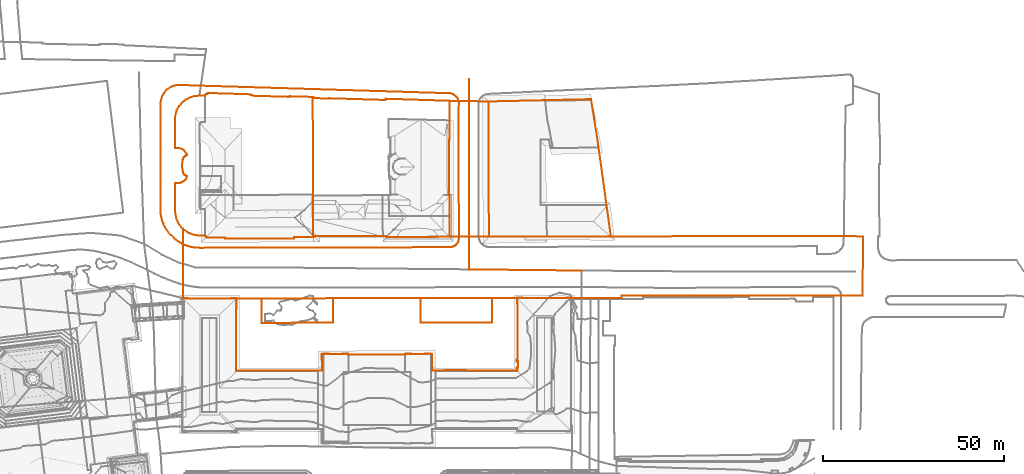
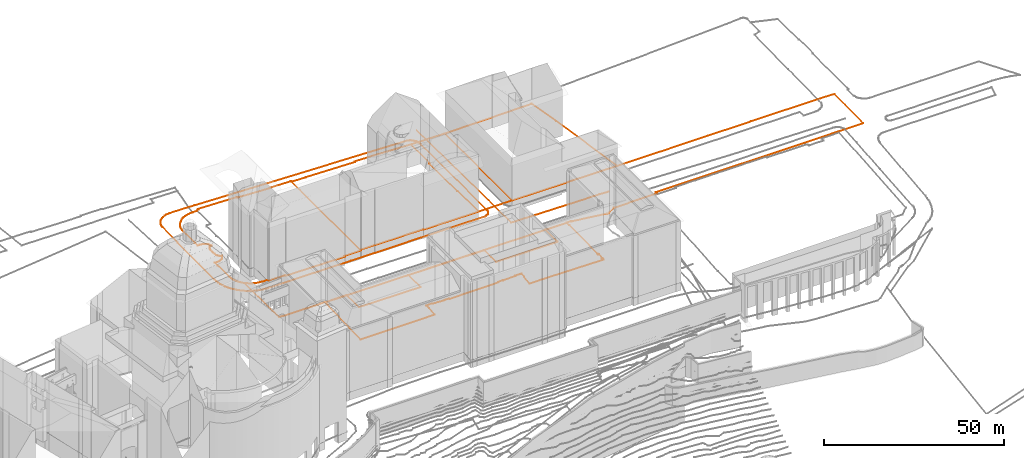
# Not in any storey, part 222 of 494: 9 proxies.
"""IFC2X3 model written with IfcOpenShell, lengths in metres."""

from ifc_helpers import new_model, entity, si_unit, frame, origin_with_axes, place, context, subcontext, project, element, save


model = new_model("IFC2X3")

# Units and contexts
model_context = context("Model", 3, precision=1e-05, world=origin_with_axes())
body_context = subcontext(model_context, "Body", "Model", "MODEL_VIEW")
ifc_project = project(units=[si_unit("AREAUNIT", "SQUARE_METRE"), si_unit("LENGTHUNIT", "METRE")], contexts=[model_context])

# Proxies
proxy_1_placement = place(None, frame((652.6867320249, 417.5187304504, 542.486), z_axis=(0.0, 0.0, 1.0), x_axis=(1.0, 0.0, 0.0)))
element("IfcBuildingElementProxy", 1, at=proxy_1_placement, Name="Road 3", ObjectType="NOTDEFINED", context=body_context, shape_type="GeometricCurveSet", body=[
    entity("IfcGeometricCurveSet", [entity("IfcPolyline", [entity("IfcCartesianPoint", [0.0370000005, 52.7809983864, -0.659]), entity("IfcCartesianPoint", [0.0, 0.0, 0.0])])]),
])
proxy_2_placement = place(None, frame((652.6867320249, 417.5187304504, 542.486), z_axis=(0.0, 0.0, 1.0), x_axis=(1.0, 0.0, 0.0)))
element("IfcBuildingElementProxy", 2, at=proxy_2_placement, Name="Road 36", ObjectType="NOTDEFINED", context=body_context, shape_type="GeometricCurveSet", body=[
    entity("IfcGeometricCurveSet", [entity("IfcPolyline", [entity("IfcCartesianPoint", [0.0, 0.0, 0.0]), entity("IfcCartesianPoint", [28.1950000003, -0.2939999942, -0.083]), entity("IfcCartesianPoint", [31.069000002, -0.3179999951, -0.138])])]),
])
proxy_3_placement = place(None, frame((567.4697320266, 434.5867160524, 542.7544887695), z_axis=(0.0, 0.0, 1.0), x_axis=(1.0, 0.0, 0.0)))
element("IfcBuildingElementProxy", 3, at=proxy_3_placement, Name="Roads Outline 43", ObjectType="NOTDEFINED", context=body_context, shape_type="GeometricCurveSet", body=[
    entity("IfcGeometricCurveSet", [entity("IfcPolyline", [entity("IfcCartesianPoint", [0.0, 0.0, 0.0]), entity("IfcCartesianPoint", [0.0620000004, 20.564, 0.0004995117]), entity("IfcCartesianPoint", [0.0780000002, 29.0260000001, 0.000628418]), entity("IfcCartesianPoint", [0.1400000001, 29.5870000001, 0.0011279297]), entity("IfcCartesianPoint", [0.2630000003, 30.1370000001, 0.0021188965]), entity("IfcCartesianPoint", [0.4470000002, 30.6710000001, 0.0036013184]), entity("IfcCartesianPoint", [0.6880000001, 31.1810000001, 0.0055429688]), entity("IfcCartesianPoint", [0.9840000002, 31.6610000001, -0.0008994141]), entity("IfcCartesianPoint", [1.3310000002, 32.1060000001, -0.0092016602]), entity("IfcCartesianPoint", [1.7590000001, 32.54, -0.0146170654]), entity("IfcCartesianPoint", [2.2350000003, 32.9200000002, 0.019026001]), entity("IfcCartesianPoint", [2.7540000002, 33.2410000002, 0.0548631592]), entity("IfcCartesianPoint", [3.307, 33.497, 0.0837890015]), entity("IfcCartesianPoint", [3.8870000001, 33.6850000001, 0.1035077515]), entity("IfcCartesianPoint", [4.4850000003, 33.8030000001, 0.0993103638]), entity("IfcCartesianPoint", [5.0930000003, 33.848, 0.0990375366]), entity("IfcCartesianPoint", [11.1800000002, 33.662, 0.1599814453]), entity("IfcCartesianPoint", [11.193, 33.662, 0.159239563]), entity("IfcCartesianPoint", [13.054, 33.605, 0.130519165]), entity("IfcCartesianPoint", [79.9580000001, 31.568, -0.1419857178]), entity("IfcCartesianPoint", [80.3730000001, 31.4780000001, -0.1546251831]), entity("IfcCartesianPoint", [80.77, 31.328, -0.1694902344]), entity("IfcCartesianPoint", [81.1400000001, 31.121, -0.1973125]), entity("IfcCartesianPoint", [81.4760000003, 30.861, -0.222578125]), entity("IfcCartesianPoint", [81.7690000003, 30.5550000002, -0.2429386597]), entity("IfcCartesianPoint", [82.014, 30.2080000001, -0.2546473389]), entity("IfcCartesianPoint", [82.202, 29.835, -0.263631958]), entity("IfcCartesianPoint", [82.3340000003, 29.439, -0.2699403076]), entity("IfcCartesianPoint", [82.4130000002, 28.9669999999, -0.2737157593]), entity("IfcCartesianPoint", [82.412, 28.4890000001, -0.2736679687]), entity("IfcCartesianPoint", [82.3310000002, 28.017, -0.269796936]), entity("IfcCartesianPoint", [82.4300000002, -8.0559999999, -0.2617280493]), entity("IfcCartesianPoint", [82.4310000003, -8.4479999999, -0.2572122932]), entity("IfcCartesianPoint", [82.4020000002, -8.838, -0.2531669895]), entity("IfcCartesianPoint", [82.3120000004, -9.219, -0.2458946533]), entity("IfcCartesianPoint", [82.1640000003, -9.581, -0.2374124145]), entity("IfcCartesianPoint", [81.96, -9.915, -0.2282564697]), entity("IfcCartesianPoint", [81.7069999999, -10.213, -0.2169340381]), entity("IfcCartesianPoint", [81.4080000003, -10.469, -0.2091205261]), entity("IfcCartesianPoint", [81.071, -10.6739999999, -0.2026078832]), entity("IfcCartesianPoint", [80.7069999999, -10.8229999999, -0.1977775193]), entity("IfcCartesianPoint", [80.324, -10.9139999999, -0.1894714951]), entity("IfcCartesianPoint", [79.9310000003, -10.942, -0.1842285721]), entity("IfcCartesianPoint", [37.3480000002, -11.047, -0.0719289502]), entity("IfcCartesianPoint", [11.0460000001, -11.108, 0.0469855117]), entity("IfcCartesianPoint", [10.159, -11.0899999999, 0.0246004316]), entity("IfcCartesianPoint", [9.2760000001, -10.9989999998, 0.0096137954]), entity("IfcCartesianPoint", [8.4029999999, -10.835, 0.0299447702]), entity("IfcCartesianPoint", [7.548, -10.598, 0.0329820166]), entity("IfcCartesianPoint", [6.7150000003, -10.291, 0.0102159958]), entity("IfcCartesianPoint", [6.4640000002, -10.182, 0.010467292]), entity("IfcCartesianPoint", [6.2150000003, -10.067, 0.0093346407]), entity("IfcCartesianPoint", [6.1520000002, -10.037, 0.008769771]), entity("IfcCartesianPoint", [6.0900000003, -10.0060000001, 0.0080815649]), entity("IfcCartesianPoint", [5.4210000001, -9.6439999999, 0.0198054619]), entity("IfcCartesianPoint", [4.7790000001, -9.2349999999, 0.0073437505]), entity("IfcCartesianPoint", [4.1680000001, -8.781, 0.0195886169]), entity("IfcCartesianPoint", [3.591, -8.2849999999, 0.0284144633]), entity("IfcCartesianPoint", [2.9140000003, -7.6189999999, 0.0165648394]), entity("IfcCartesianPoint", [2.2940000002, -6.898, 0.0231960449]), entity("IfcCartesianPoint", [1.7370000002, -6.129, -0.0161719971]), entity("IfcCartesianPoint", [1.2460000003, -5.3159999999, -0.0071679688]), entity("IfcCartesianPoint", [0.8250000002, -4.4639999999, 0.0029047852]), entity("IfcCartesianPoint", [0.5060000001, -3.6069999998, 0.0040766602]), entity("IfcCartesianPoint", [0.2630000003, -2.7249999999, 0.0021188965]), entity("IfcCartesianPoint", [0.0970000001, -1.825, 0.0007814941]), entity("IfcCartesianPoint", [0.0090000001, -0.915, 7.25098e-05]), entity("IfcCartesianPoint", [0.0, 0.0, 0.0])])]),
])
proxy_4_placement = place(None, frame((588.3927320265, 389.6227160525, 542.3735518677), z_axis=(0.0, 0.0, 1.0), x_axis=(1.0, 0.0, 0.0)))
element("IfcBuildingElementProxy", 4, at=proxy_4_placement, Name="Roads Outline 48", ObjectType="NOTDEFINED", context=body_context, shape_type="GeometricCurveSet", body=[
    entity("IfcGeometricCurveSet", [entity("IfcPolyline", [entity("IfcCartesianPoint", [0.0, 0.0, 0.0]), entity("IfcCartesianPoint", [0.0470000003, 18.6070000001, 0.4447444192]), entity("IfcCartesianPoint", [0.1460000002, 18.605, 0.4409442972]), entity("IfcCartesianPoint", [0.1460000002, 19.8740000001, 0.4538349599]), entity("IfcCartesianPoint", [6.8940000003, 19.8840000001, 0.5417406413]), entity("IfcCartesianPoint", [7.0130000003, 19.8840000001, 0.5450326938]), entity("IfcCartesianPoint", [7.0360000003, 13.1429999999, 0.481623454]), entity("IfcCartesianPoint", [26.7250000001, 13.156, 0.3870995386]), entity("IfcCartesianPoint", [26.713, 19.9169999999, 0.2710653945]), entity("IfcCartesianPoint", [50.969, 19.956, 0.2468383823]), entity("IfcCartesianPoint", [50.969, 19.8999999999, 0.2442761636]), entity("IfcCartesianPoint", [50.9720000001, 13.219, 0.3616328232]), entity("IfcCartesianPoint", [70.6670000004, 13.2579999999, 0.2745794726]), entity("IfcCartesianPoint", [70.6510000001, 19.9879999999, 0.2568159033]), entity("IfcCartesianPoint", [77.5020000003, 19.9990000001, 0.1804133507]), entity("IfcCartesianPoint", [77.5010000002, 18.6569999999, 0.189393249]), entity("IfcCartesianPoint", [77.6500000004, 18.6569999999, 0.1903091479]), entity("IfcCartesianPoint", [77.6670000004, 3.054, 0.0783720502]), entity("IfcCartesianPoint", [77.4880000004, 3.054, 0.1048495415]), entity("IfcCartesianPoint", [77.4920000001, 2.517, 0.0850132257]), entity("IfcCartesianPoint", [77.8350000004, 2.5190000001, 0.0435398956]), entity("IfcCartesianPoint", [77.8490000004, 0.7409999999, -0.1432831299]), entity("IfcCartesianPoint", [77.4960000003, 0.7390000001, -0.1122651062]), entity("IfcCartesianPoint", [77.4950000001, 0.2139999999, -0.1844251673]), entity("IfcCartesianPoint", [77.7050000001, 0.2139999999, -0.2030466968]), entity("IfcCartesianPoint", [77.7050000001, 0.004, -0.2319466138]), entity("IfcCartesianPoint", [77.6380000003, 0.004, -0.2260049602]), entity("IfcCartesianPoint", [58.642, 0.0419999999, -0.0577183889]), entity("IfcCartesianPoint", [54.0320000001, 0.0109999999, -0.0286762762]), entity("IfcCartesianPoint", [54.0310000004, 3.071, 0.4948335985]), entity("IfcCartesianPoint", [54.1510000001, 3.071, 0.4900193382]), entity("IfcCartesianPoint", [54.1490000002, 4.558, 0.5011787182]), entity("IfcCartesianPoint", [53.6490000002, 4.5630000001, 0.5114040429]), entity("IfcCartesianPoint", [53.6510000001, 4.6629999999, 0.5086091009]), entity("IfcCartesianPoint", [52.145, 4.6599999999, 0.531783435]), entity("IfcCartesianPoint", [52.1430000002, 4.4990000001, 0.5352608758]), entity("IfcCartesianPoint", [48.2420000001, 4.487, 0.3741891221]), entity("IfcCartesianPoint", [48.2390000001, 4.649, 0.3931432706]), entity("IfcCartesianPoint", [46.73, 4.6410000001, 0.299680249]), entity("IfcCartesianPoint", [46.7260000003, 4.4350000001, 0.2751059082]), entity("IfcCartesianPoint", [30.9350000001, 4.4299999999, 0.1564332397]), entity("IfcCartesianPoint", [30.932, 4.645, 0.1817151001]), entity("IfcCartesianPoint", [29.4390000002, 4.6369999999, 0.2369729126]), entity("IfcCartesianPoint", [29.4330000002, 4.477, 0.2184680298]), entity("IfcCartesianPoint", [25.5380000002, 4.477, 0.4378212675]), entity("IfcCartesianPoint", [25.5330000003, 4.6310000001, 0.4449681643]), entity("IfcCartesianPoint", [24.0430000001, 4.6229999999, 0.4758845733]), entity("IfcCartesianPoint", [24.0270000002, 4.5279999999, 0.475778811]), entity("IfcCartesianPoint", [23.5360000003, 4.517, 0.4798681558]), entity("IfcCartesianPoint", [23.5650000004, 3.058, 0.4714583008]), entity("IfcCartesianPoint", [23.6860000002, 3.0549999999, 0.4696469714]), entity("IfcCartesianPoint", [23.6900000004, -0.0150000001, 0.132790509]), entity("IfcCartesianPoint", [0.0, 0.0, 0.0])])]),
])
proxy_5_placement = place(None, frame((571.4827320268, 450.9747160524, 542.8571121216), z_axis=(0.0, 0.0, 1.0), x_axis=(1.0, 0.0, 0.0)))
element("IfcBuildingElementProxy", 5, at=proxy_5_placement, Name="Cadastre 14", ObjectType="NOTDEFINED", context=body_context, shape_type="GeometricCurveSet", body=[
    entity("IfcGeometricCurveSet", [entity("IfcPolyline", [entity("IfcCartesianPoint", [0.0, 0.0, 0.0]), entity("IfcCartesianPoint", [0.0019999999, 1.5090000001, -1.40381e-05]), entity("IfcCartesianPoint", [0.0630000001, 1.517, -0.0004421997]), entity("IfcCartesianPoint", [0.0290000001, 7.8489999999, -0.0002035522]), entity("IfcCartesianPoint", [0.0519999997, 8.5090000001, -0.0003649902]), entity("IfcCartesianPoint", [0.142, 9.1629999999, -0.0009967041]), entity("IfcCartesianPoint", [0.298, 9.8049999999, -0.0020916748]), entity("IfcCartesianPoint", [0.517, 10.4280000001, -0.0036288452]), entity("IfcCartesianPoint", [0.798, 11.0249999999, -0.0045324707]), entity("IfcCartesianPoint", [1.1379999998, 11.591, -0.0033911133]), entity("IfcCartesianPoint", [1.5329999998, 12.1200000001, -0.0020651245]), entity("IfcCartesianPoint", [1.9789999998, 12.6070000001, 0.0097111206]), entity("IfcCartesianPoint", [2.4720000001, 13.0460000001, 0.0292096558]), entity("IfcCartesianPoint", [3.0060000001, 13.433, 0.037744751]), entity("IfcCartesianPoint", [3.577, 13.7650000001, 0.0372219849]), entity("IfcCartesianPoint", [4.179, 14.037, 0.0449423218]), entity("IfcCartesianPoint", [4.804, 14.247, 0.0559094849]), entity("IfcCartesianPoint", [5.4479999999, 14.3929999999, 0.0713963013]), entity("IfcCartesianPoint", [6.1030000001, 14.4739999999, 0.0801749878]), entity("IfcCartesianPoint", [6.7629999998, 14.4880000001, 0.0804135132]), entity("IfcCartesianPoint", [6.7709999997, 14.55, 0.0799569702]), entity("IfcCartesianPoint", [8.2719999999, 14.5490000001, 0.0282827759]), entity("IfcCartesianPoint", [8.2779999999, 14.6699999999, 0.0282937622]), entity("IfcCartesianPoint", [8.6489999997, 15.0060000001, 0.0289730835]), entity("IfcCartesianPoint", [8.9789999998, 15.0050000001, 0.0281039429]), entity("IfcCartesianPoint", [8.997, 15.253, 0.0280435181]), entity("IfcCartesianPoint", [21.0759999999, 14.8700000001, 0.0100957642]), entity("IfcCartesianPoint", [21.0639999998, 14.625, 0.0100855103]), entity("IfcCartesianPoint", [21.3870000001, 14.615, 0.0103615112]), entity("IfcCartesianPoint", [21.3939999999, 14.5660000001, 0.0103674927]), entity("IfcCartesianPoint", [21.7579999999, 14.548, 0.0103555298]), entity("IfcCartesianPoint", [21.7719999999, 14.4790000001, 0.0102957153]), entity("IfcCartesianPoint", [31.4210000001, 14.186, -0.1225966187]), entity("IfcCartesianPoint", [31.4249999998, 14.2820000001, -0.1227243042]), entity("IfcCartesianPoint", [31.7679999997, 14.277, -0.1336688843]), entity("IfcCartesianPoint", [31.7709999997, 14.344, -0.1337644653]), entity("IfcCartesianPoint", [38.0589999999, 14.1629999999, -0.1517463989]), entity("IfcCartesianPoint", [38.0589999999, 14.0900000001, -0.1517463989]), entity("IfcCartesianPoint", [38.1710000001, -24.4750000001, -0.1483571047]), entity("IfcCartesianPoint", [38.1710000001, -24.544, -0.1503563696]), entity("IfcCartesianPoint", [32.8479999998, -24.547, -0.1371345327]), entity("IfcCartesianPoint", [32.8419999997, -24.9039999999, -0.1416531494]), entity("IfcCartesianPoint", [13.9029999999, -24.9609999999, 0.0271454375]), entity("IfcCartesianPoint", [13.8679999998, -24.615, 0.0445227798]), entity("IfcCartesianPoint", [8.7509999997, -24.6259999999, 0.0477380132]), entity("IfcCartesianPoint", [8.3929999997, -24.277, 0.0582267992]), entity("IfcCartesianPoint", [8.3899999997, -24.1569999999, 0.054523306]), entity("IfcCartesianPoint", [6.8769999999, -24.169, 0.0649339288]), entity("IfcCartesianPoint", [6.8759999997, -24.095, 0.0657276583]), entity("IfcCartesianPoint", [6.23, -24.068, 0.0655939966]), entity("IfcCartesianPoint", [5.5889999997, -23.98, 0.0566184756]), entity("IfcCartesianPoint", [4.96, -23.8300000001, 0.0345990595]), entity("IfcCartesianPoint", [4.3479999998, -23.621, 0.029925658]), entity("IfcCartesianPoint", [3.7590000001, -23.3540000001, 0.0353835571]), entity("IfcCartesianPoint", [3.199, -23.031, 0.0375680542]), entity("IfcCartesianPoint", [2.6719999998, -22.6569999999, 0.037119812]), entity("IfcCartesianPoint", [2.1829999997, -22.233, 0.01777948]), entity("IfcCartesianPoint", [1.736, -21.763, 0.0001002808]), entity("IfcCartesianPoint", [1.3359999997, -21.2520000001, -0.0027264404]), entity("IfcCartesianPoint", [0.9879999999, -20.7050000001, -0.0038946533]), entity("IfcCartesianPoint", [0.693, -20.1270000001, -0.0048641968]), entity("IfcCartesianPoint", [0.4559999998, -19.524, -0.0032006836]), entity("IfcCartesianPoint", [0.2779999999, -18.8999999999, -0.0019512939]), entity("IfcCartesianPoint", [0.1599999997, -18.2619999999, -0.0011230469]), entity("IfcCartesianPoint", [0.105, -17.6159999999, -0.0007369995]), entity("IfcCartesianPoint", [0.0949999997, -11.1089999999, -0.0006668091]), entity("IfcCartesianPoint", [0.0209999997, -11.1000000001, -0.0001473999]), entity("IfcCartesianPoint", [0.02, -9.5900000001, -0.0001403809]), entity("IfcCartesianPoint", [0.7739999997, -9.588, -0.0046130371]), entity("IfcCartesianPoint", [0.7779999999, -9.6189999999, -0.0045996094]), entity("IfcCartesianPoint", [1.213, -9.598, -0.0031393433]), entity("IfcCartesianPoint", [1.6379999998, -9.504, -0.0017126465]), entity("IfcCartesianPoint", [2.0409999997, -9.341, 0.012163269]), entity("IfcCartesianPoint", [2.412, -9.1129999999, 0.0268366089]), entity("IfcCartesianPoint", [2.7399999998, -8.825, 0.0379882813]), entity("IfcCartesianPoint", [3.0149999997, -8.486, 0.0377365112]), entity("IfcCartesianPoint", [3.2289999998, -8.1059999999, 0.0375405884]), entity("IfcCartesianPoint", [3.3769999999, -7.6950000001, 0.0374050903]), entity("IfcCartesianPoint", [3.088, -7.6040000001, 0.0376696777]), entity("IfcCartesianPoint", [2.8219999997, -7.4579999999, 0.037913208]), entity("IfcCartesianPoint", [2.5899999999, -7.2619999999, 0.033876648]), entity("IfcCartesianPoint", [2.4019999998, -7.024, 0.0264411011]), entity("IfcCartesianPoint", [2.264, -6.754, 0.0209830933]), entity("IfcCartesianPoint", [2.1829999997, -6.4620000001, 0.01777948]), entity("IfcCartesianPoint", [2.074, -5.817, 0.0134684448]), entity("IfcCartesianPoint", [2.0159999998, -5.165, 0.0111744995]), entity("IfcCartesianPoint", [2.0109999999, -4.5109999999, 0.0109767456]), entity("IfcCartesianPoint", [2.057, -3.858, 0.0127960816]), entity("IfcCartesianPoint", [2.1540000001, -3.2109999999, 0.0166325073]), entity("IfcCartesianPoint", [2.2390000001, -2.916, 0.0199943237]), entity("IfcCartesianPoint", [2.378, -2.642, 0.0254918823]), entity("IfcCartesianPoint", [2.5669999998, -2.3999999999, 0.03296698]), entity("IfcCartesianPoint", [2.7990000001, -2.1980000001, 0.0379342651]), entity("IfcCartesianPoint", [3.0639999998, -2.0430000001, 0.0376916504]), entity("IfcCartesianPoint", [3.3539999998, -1.942, 0.0374261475]), entity("IfcCartesianPoint", [3.2059999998, -1.5289999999, 0.0375616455]), entity("IfcCartesianPoint", [2.9929999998, -1.1459999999, 0.0377566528]), entity("IfcCartesianPoint", [2.7199999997, -0.8030000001, 0.0380065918]), entity("IfcCartesianPoint", [2.3939999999, -0.51, 0.0261246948]), entity("IfcCartesianPoint", [2.0249999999, -0.274, 0.0115304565]), entity("IfcCartesianPoint", [1.622, -0.102, -0.0017663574]), entity("IfcCartesianPoint", [1.1969999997, 0.0020000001, -0.0031930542]), entity("IfcCartesianPoint", [0.7599999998, 0.0349999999, -0.0046600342]), entity("IfcCartesianPoint", [0.7560000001, -0.004, -0.0046734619]), entity("IfcCartesianPoint", [0.0, 0.0, 0.0])])]),
])
proxy_6_placement = place(None, frame((609.5417320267, 465.0647160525, 542.7053657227), z_axis=(0.0, 0.0, 1.0), x_axis=(1.0, 0.0, 0.0)))
element("IfcBuildingElementProxy", 6, at=proxy_6_placement, Name="Cadastre 18", ObjectType="NOTDEFINED", context=body_context, shape_type="GeometricCurveSet", body=[
    entity("IfcGeometricCurveSet", [entity("IfcPolyline", [entity("IfcCartesianPoint", [0.0, 0.0, 0.0]), entity("IfcCartesianPoint", [0.1809999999, -0.003, 0.0050596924]), entity("IfcCartesianPoint", [0.1690000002, -0.2439999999, 0.0047242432]), entity("IfcCartesianPoint", [4.5499999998, -0.382, 0.0129088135]), entity("IfcCartesianPoint", [4.5529999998, -0.301, 0.0129573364]), entity("IfcCartesianPoint", [20.111, -0.773, 0.0272835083]), entity("IfcCartesianPoint", [20.1140000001, -0.433, 0.0272452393]), entity("IfcCartesianPoint", [37.764, -0.9950000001, -0.0891469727]), entity("IfcCartesianPoint", [37.798, -11.6880000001, -0.0901824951]), entity("IfcCartesianPoint", [37.588, -11.682, -0.0833823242]), entity("IfcCartesianPoint", [37.6290000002, -27.017, -0.0849763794]), entity("IfcCartesianPoint", [37.818, -27.0020000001, -0.090791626]), entity("IfcCartesianPoint", [37.8450000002, -38.5390000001, -0.1008476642]), entity("IfcCartesianPoint", [20.2110000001, -38.5720000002, -0.0028393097]), entity("IfcCartesianPoint", [20.2280000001, -38.3689999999, 0.0042158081]), entity("IfcCartesianPoint", [4.6690000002, -38.3910000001, 0.0470196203]), entity("IfcCartesianPoint", [4.6690000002, -38.311, 0.0444764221]), entity("IfcCartesianPoint", [0.281, -38.338, 0.0063204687]), entity("IfcCartesianPoint", [0.2880000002, -38.5590000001, 0.0018945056]), entity("IfcCartesianPoint", [0.1120000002, -38.5650000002, 0.0033892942]), entity("IfcCartesianPoint", [0.0, 0.0, 0.0])])]),
])
proxy_7_placement = place(None, frame((658.1087320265, 463.8807160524, 542.6050545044), z_axis=(0.0, 0.0, 1.0), x_axis=(1.0, 0.0, 0.0)))
element("IfcBuildingElementProxy", 7, at=proxy_7_placement, Name="Cadastre 19", ObjectType="NOTDEFINED", context=body_context, shape_type="GeometricCurveSet", body=[
    entity("IfcGeometricCurveSet", [entity("IfcPolyline", [entity("IfcCartesianPoint", [0.0, 0.0, 0.0]), entity("IfcCartesianPoint", [28.0160000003, 0.6370000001, -0.1387178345]), entity("IfcCartesianPoint", [28.2660000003, 0.6410000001, -0.1468653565]), entity("IfcCartesianPoint", [29.98, -9.9039999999, -0.1692634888]), entity("IfcCartesianPoint", [33.7630000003, -37.2609999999, -0.1397594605]), entity("IfcCartesianPoint", [0.0600000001, -37.3319999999, 0.0107756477]), entity("IfcCartesianPoint", [0.0, 0.0, 0.0])])]),
])
proxy_8_placement = place(None, frame((573.6657320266, 428.7417160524, 542.8748916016), z_axis=(0.0, 0.0, 1.0), x_axis=(1.0, 0.0, 0.0)))
element("IfcBuildingElementProxy", 8, at=proxy_8_placement, Name="Cadastre 140", ObjectType="NOTDEFINED", context=body_context, shape_type="GeometricCurveSet", body=[
    entity("IfcGeometricCurveSet", [entity("IfcPolyline", [entity("IfcCartesianPoint", [0.0, 0.0, 0.0]), entity("IfcCartesianPoint", [0.4890000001, -0.4239999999, 0.019340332]), entity("IfcCartesianPoint", [1.0160000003, -0.798, 0.0197885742]), entity("IfcCartesianPoint", [1.5760000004, -1.121, 0.0176040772]), entity("IfcCartesianPoint", [2.165, -1.388, 0.012146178]), entity("IfcCartesianPoint", [2.7770000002, -1.5970000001, 0.0168195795]), entity("IfcCartesianPoint", [3.406, -1.747, 0.0388389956]), entity("IfcCartesianPoint", [4.0470000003, -1.835, 0.0478145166]), entity("IfcCartesianPoint", [4.693, -1.862, 0.0479481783]), entity("IfcCartesianPoint", [4.6940000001, -1.936, 0.0471544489]), entity("IfcCartesianPoint", [6.2069999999, -1.9239999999, 0.036743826]), entity("IfcCartesianPoint", [6.21, -2.044, 0.0404473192]), entity("IfcCartesianPoint", [6.568, -2.3929999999, 0.0299585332]), entity("IfcCartesianPoint", [11.6850000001, -2.382, 0.0267432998]), entity("IfcCartesianPoint", [11.7200000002, -2.7279999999, 0.0093659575]), entity("IfcCartesianPoint", [30.659, -2.6709999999, -0.1594326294]), entity("IfcCartesianPoint", [30.665, -2.314, -0.1549140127]), entity("IfcCartesianPoint", [35.9880000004, -2.311, -0.1681358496]), entity("IfcCartesianPoint", [35.9880000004, -2.2420000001, -0.1661365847]), entity("IfcCartesianPoint", [36.1640000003, -2.236, -0.1676313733]), entity("IfcCartesianPoint", [36.1570000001, -2.0149999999, -0.1632054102]), entity("IfcCartesianPoint", [40.5450000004, -1.9879999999, -0.1250494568]), entity("IfcCartesianPoint", [40.5450000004, -2.068, -0.1225062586]), entity("IfcCartesianPoint", [56.1040000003, -2.0459999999, -0.1653100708]), entity("IfcCartesianPoint", [56.0870000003, -2.2490000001, -0.1723651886]), entity("IfcCartesianPoint", [73.7210000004, -2.216, -0.2703735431]), entity("IfcCartesianPoint", [84.503, -2.193, -0.2590614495]), entity("IfcCartesianPoint", [118.2060000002, -2.122, -0.4095965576]), entity("IfcCartesianPoint", [147.3840000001, -2.058, -0.409039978]), entity("IfcCartesianPoint", [161.2439999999, -2.0319999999, -0.4098318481]), entity("IfcCartesianPoint", [182.2750000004, -1.9790000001, -0.4114460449]), entity("IfcCartesianPoint", [187.8830000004, -2.1359999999, -0.4098580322]), entity("IfcCartesianPoint", [187.6670000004, -18.378, -0.4150802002]), entity("IfcCartesianPoint", [179.6690000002, -18.388, -0.4152938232]), entity("IfcCartesianPoint", [121.1460000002, -18.4909999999, -0.4174941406]), entity("IfcCartesianPoint", [121.1470000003, -19.111, -0.4322280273]), entity("IfcCartesianPoint", [114.8170000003, -19.121, -0.4328139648]), entity("IfcCartesianPoint", [107.3990000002, -19.138, -0.5585008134]), entity("IfcCartesianPoint", [107.3990000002, -18.953, -0.5097417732]), entity("IfcCartesianPoint", [105.8960000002, -18.9509999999, -1.7530609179]), entity("IfcCartesianPoint", [105.889, -19.095, -1.8225005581]), entity("IfcCartesianPoint", [93.7260000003, -19.1189999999, -0.3179616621]), entity("IfcCartesianPoint", [93.716, -18.966, -0.3199922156]), entity("IfcCartesianPoint", [92.2290000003, -18.97, -0.32101801]), entity("IfcCartesianPoint", [92.2290000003, -19.1199999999, -0.3209263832]), entity("IfcCartesianPoint", [14.8740000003, -19.2449999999, -0.0475833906]), entity("IfcCartesianPoint", [14.872, -19.095, -0.0465944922]), entity("IfcCartesianPoint", [13.3770000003, -19.0989999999, -0.0198334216]), entity("IfcCartesianPoint", [13.375, -19.2439999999, -0.02541167]), entity("IfcCartesianPoint", [1.2250000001, -19.247, 0.0410190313]), entity("IfcCartesianPoint", [1.2220000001, -19.1059999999, 0.040450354]), entity("IfcCartesianPoint", [0.1130000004, -19.1129999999, 0.0427025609]), entity("IfcCartesianPoint", [0.0690000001, -15.49, -0.1137945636]), entity("IfcCartesianPoint", [0.0, 0.0, 0.0])])]),
])
proxy_9_placement = place(None, frame((647.1297320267, 453.3827160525, 542.6219833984), z_axis=(0.0, 0.0, 1.0), x_axis=(1.0, 0.0, 0.0)))
element("IfcBuildingElementProxy", 9, at=proxy_9_placement, Name="Cadastre 142", ObjectType="NOTDEFINED", context=body_context, shape_type="GeometricCurveSet", body=[
    entity("IfcGeometricCurveSet", [entity("IfcPolyline", [entity("IfcCartesianPoint", [0.0, 0.0, 0.0]), entity("IfcCartesianPoint", [0.21, -0.0060000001, -0.0068001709]), entity("IfcCartesianPoint", [0.176, 10.6869999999, -0.0057646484]), entity("IfcCartesianPoint", [10.9789999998, 10.4979999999, -0.016928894]), entity("IfcCartesianPoint", [11.0389999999, -26.834, -0.0061532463]), entity("IfcCartesianPoint", [0.2570000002, -26.8570000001, -0.01746534]), entity("IfcCartesianPoint", [0.23, -15.3200000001, -0.0074093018]), entity("IfcCartesianPoint", [0.0410000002, -15.335, -0.0015940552]), entity("IfcCartesianPoint", [0.0, 0.0, 0.0])])]),
])

save(model, "model.ifc")
